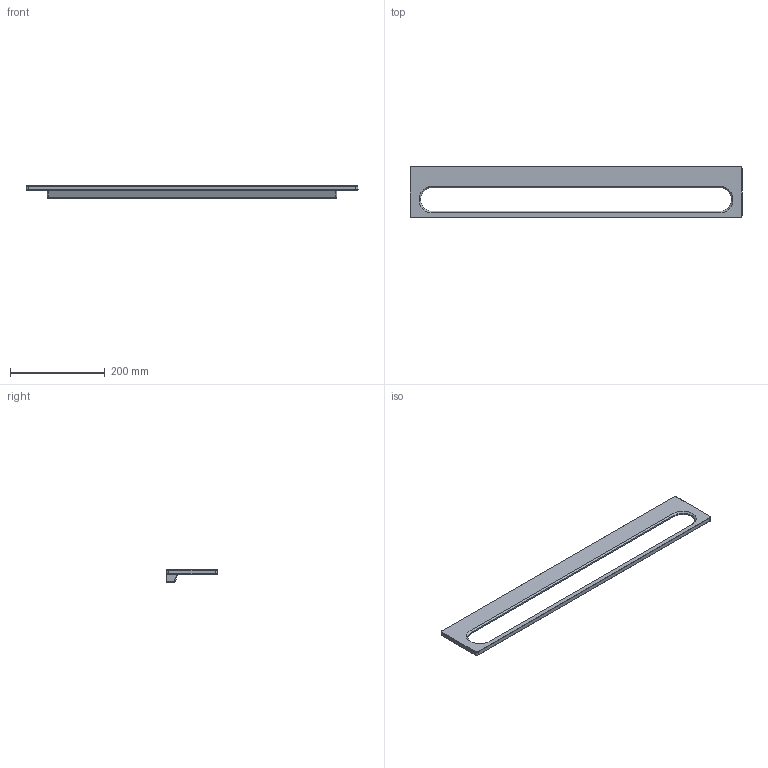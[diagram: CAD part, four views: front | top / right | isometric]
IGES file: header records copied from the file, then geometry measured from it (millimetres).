
Start section:  PTC IGES file: yt87s7r.igs
Global section: file name: yt87s7r.igs; native system: Pro/ENGINEER by Parametric Technology Corporation; preprocessor: 2009140; author: damjan; organization: Unknown; date: 20100804.120103; units: millimetre
Bounding box: 700 x 108 x 26 mm (x, y, z)
Volume: 596334.7 mm3; surface area: 126153.5 mm2
Topology: 1 solids, 1 shells, 60 faces, 144 edges, 86 vertices
Faces by surface type: revolution 39, bspline 21
